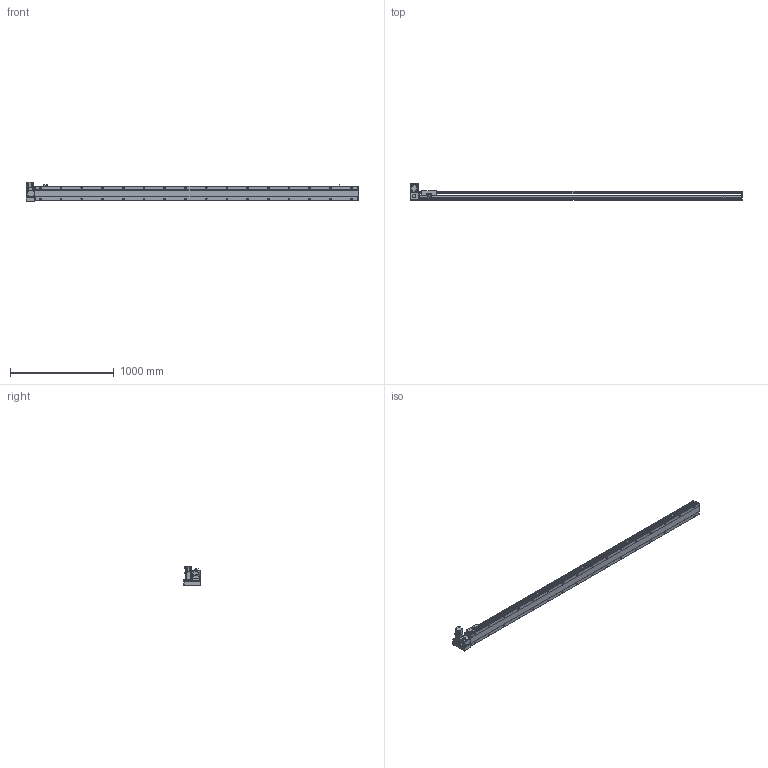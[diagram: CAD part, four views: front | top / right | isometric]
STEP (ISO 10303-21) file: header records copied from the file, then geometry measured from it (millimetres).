
FILE_DESCRIPTION( ( 'STEP AP214' ), '1' );
FILE_NAME( 'x:/temp/worker_6/temp/exporttempdir_5396_159_0CWaT/format_0/PBS140S-P40-S2850-LU-T40-C1-N(0).stp', '2022-06-09T00:37:09', ( 'License CC BY-ND 4.0' ), ( 'CADENAS' ), ' ', 'PARTsolutions', ' ' );
FILE_SCHEMA( ( 'AUTOMOTIVE_DESIGN { 1 0 10303 214 1 1 1 1 }' ) );
Length unit declared in the file: millimetre
Products named in the file (7): PBS140S-P40-S2850-LU-T40-C1-N(0); _PBS140S-S2850()_body; _PBS140ST-LU_motors; _T40-p1; _PBS140S_sliser; _PBS140S_plant; _PBS140S_sensor
Assembly tree (8 placements, depth 2):
  PBS140S-P40-S2850-LU-T40-C1-N(0)
    _PBS140S-S2850()_body
    _PBS140ST-LU_motors
    _T40-p1
    _PBS140S_sliser
    _PBS140S_plant
    _PBS140S_sensor  x3
Bounding box: 3204 x 162.5 x 189.7 mm (x, y, z)
Volume: 15465188.7 mm3; surface area: 2597096.8 mm2
Topology: 8 solids, 8 shells, 1227 faces, 3231 edges, 2113 vertices
Faces by surface type: plane 750, cylinder 409, cone 58, sphere 8, torus 2
Full cylindrical faces by diameter (mm): 3.242 x4, 4 x2, 4.134 x4, 4.4 x8, 4.5 x2, 4.8 x4, 4.917 x40, 5.5 x7, 6 x2, 7 x34, 7.5 x8, 8 x12, 8.5 x4, 10.5 x32, 14 x1, 30 x2, 50 x2
Entity records: 45472 total; most frequent: CARTESIAN_POINT 7750, DIRECTION 5908, ORIENTED_EDGE 5542, EDGE_CURVE 2771, AXIS2_PLACEMENT_3D 2099, VERTEX_POINT 1945, LINE 1710, VECTOR 1710
